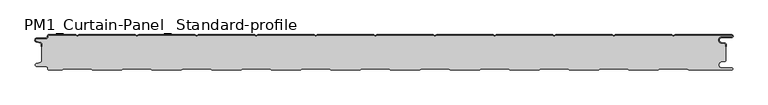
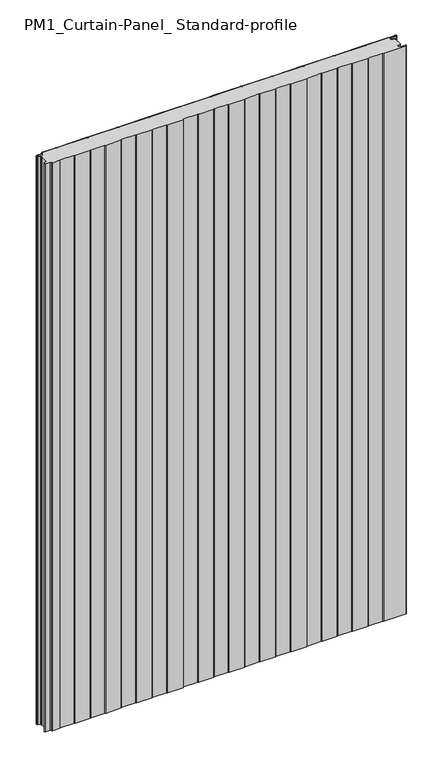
"""IFC4 building model written with IfcOpenShell, lengths in millimetres: plate geometry, PM1_Curtain-Panel_ Standard-profile : ACH_PM1_Acoustic-Sectioning-Panel_60M."""

from ifc_helpers import new_model, si_unit, point, frame, frame_2d, origin, origin_with_axes, place, context, project, spatial, polyline, circle_curve, trimmed, segment, composite_curve, outline, extrude, source, transform, mapped, element, save
from ifc_brep_helpers import plane_surface, cylinder_surface, revolved_surface, advanced_brep


def pm1_curtain_panel_standard_profile_ec20e6b9(model_context):
    return source(origin(), model_context, "Body", "SolidModel", [
        advanced_brep(
        [(-575.0, -15.878557, 1945.7507136), (-575.0, -20.0, 1945.7507136), (-574.2, -20.0, 1945.7507136), (-574.2, -15.878557, 1945.7507136), (-576.370137, -13.1503208, 1945.7507136), (-582.529863, -11.728236, 1945.7507136), (-581.9, -6.2, 1945.7507136), (-566.4, -6.2, 1945.7507136), (-563.6, -3.4, 1945.7507136), (-563.6, -2.0, 1945.7507136), (-562.4, -0.8, 1945.7507136), (-517.3143588, -0.8, 1945.7507136), (-514.4, -2.482606, 1945.7507136), (-511.4856412, -0.8, 1945.7507136), (-417.3143588, -0.8, 1945.7507136), (-414.4, -2.482606, 1945.7507136), (-411.4856412, -0.8, 1945.7507136), (-317.3143588, -0.8, 1945.7507136), (-314.4, -2.482606, 1945.7507136), (-311.4856412, -0.8, 1945.7507136), (-217.3143588, -0.8, 1945.7507136), (-214.4, -2.482606, 1945.7507136), (-211.4856412, -0.8, 1945.7507136), (-117.3143588, -0.8, 1945.7507136), (-114.4, -2.482606, 1945.7507136), (-111.4856412, -0.8, 1945.7507136), (-17.3143588, -0.8, 1945.7507136), (-14.4, -2.482606, 1945.7507136), (-11.4856412, -0.8, 1945.7507136), (82.6856412, -0.8, 1945.7507136), (85.6, -2.482606, 1945.7507136), (88.5143588, -0.8, 1945.7507136), (182.6856412, -0.8, 1945.7507136), (185.6, -2.482606, 1945.7507136), (188.5143588, -0.8, 1945.7507136), (282.6856412, -0.8, 1945.7507136), (285.6, -2.482606, 1945.7507136), (288.5143588, -0.8, 1945.7507136), (382.6856412, -0.8, 1945.7507136), (385.6, -2.482606, 1945.7507136), (388.5143588, -0.8, 1945.7507136), (482.6856412, -0.8, 1945.7507136), (485.6, -2.482606, 1945.7507136), (488.5143588, -0.8, 1945.7507136), (583.1, -0.8, 1945.7507136), (583.1, -4.2, 1945.7507136), (566.1, -4.2, 1945.7507136), (565.2664884, -13.7270771, 1945.7507136), (571.7125669, -14.8636953, 1945.7507136), (573.2, -16.6363492, 1945.7507136), (573.2, -20.0, 1945.7507136), (574.0, -20.0, 1945.7507136), (574.0, -16.6363492, 1945.7507136), (571.8514855, -14.0758491, 1945.7507136), (565.405407, -12.939231, 1945.7507136), (566.1, -5.0, 1945.7507136), (583.1, -5.0, 1945.7507136), (585.6, -2.5, 1945.7507136), (583.1, 0.0, 1945.7507136), (488.2999995, 0.0, 1945.7507136), (485.6, -1.5588455, 1945.7507136), (482.9000005, 0.0, 1945.7507136), (388.2999995, 0.0, 1945.7507136), (385.6, -1.5588455, 1945.7507136), (382.9000005, 0.0, 1945.7507136), (288.2999995, 0.0, 1945.7507136), (285.6, -1.5588455, 1945.7507136), (282.9000005, 0.0, 1945.7507136), (188.2999995, 0.0, 1945.7507136), (185.6, -1.5588455, 1945.7507136), (182.9000005, 0.0, 1945.7507136), (88.2999995, 0.0, 1945.7507136), (85.6, -1.5588455, 1945.7507136), (82.9000005, 0.0, 1945.7507136), (-11.7000005, 0.0, 1945.7507136), (-14.4, -1.5588455, 1945.7507136), (-17.0999995, 0.0, 1945.7507136), (-111.7000005, 0.0, 1945.7507136), (-114.4, -1.5588455, 1945.7507136), (-117.0999995, 0.0, 1945.7507136), (-211.7000005, 0.0, 1945.7507136), (-214.4, -1.5588455, 1945.7507136), (-217.0999995, 0.0, 1945.7507136), (-311.7000005, 0.0, 1945.7507136), (-314.4, -1.5588455, 1945.7507136), (-317.0999995, 0.0, 1945.7507136), (-411.7000005, 0.0, 1945.7507136), (-414.4, -1.5588455, 1945.7507136), (-417.0999995, 0.0, 1945.7507136), (-511.7000005, 0.0, 1945.7507136), (-514.4, -1.5588455, 1945.7507136), (-517.0999995, 0.0, 1945.7507136), (-562.4, 0.0, 1945.7507136), (-564.4, -2.0, 1945.7507136), (-564.4, -3.4, 1945.7507136), (-566.4, -5.4, 1945.7507136), (-581.9, -5.4, 1945.7507136), (-582.7098239, -12.5077322, 1945.7507136), (-576.5500979, -13.929817, 1945.7507136), (-575.0, -15.878557, 0.0), (-576.5500978, -13.9298169, 0.0), (-582.7098239, -12.507732, 0.0), (-581.9, -5.4, 0.0), (-566.4, -5.4, 0.0), (-564.4, -3.4, 0.0), (-564.4, -2.0, 0.0), (-562.4, 0.0, 0.0), (-517.0999995, 0.0, 0.0), (-514.4, -1.5588455, 0.0), (-511.7000005, 0.0, 0.0), (-417.0999995, 0.0, 0.0), (-414.4, -1.5588455, 0.0), (-411.7000005, 0.0, 0.0), (-317.0999995, 0.0, 0.0), (-314.4, -1.5588455, 0.0), (-311.7000005, 0.0, 0.0), (-217.0999995, 0.0, 0.0), (-214.4, -1.5588455, 0.0), (-211.7000005, 0.0, 0.0), (-117.0999995, 0.0, 0.0), (-114.4, -1.5588455, 0.0), (-111.7000005, 0.0, 0.0), (-17.0999995, 0.0, 0.0), (-14.4, -1.5588455, 0.0), (-11.7000005, 0.0, 0.0), (82.9000005, 0.0, 0.0), (85.6, -1.5588455, 0.0), (88.2999995, 0.0, 0.0), (182.9000005, 0.0, 0.0), (185.6, -1.5588455, 0.0), (188.2999995, 0.0, 0.0), (282.9000005, 0.0, 0.0), (285.6, -1.5588455, 0.0), (288.2999995, 0.0, 0.0), (382.9000005, 0.0, 0.0), (385.6, -1.5588455, 0.0), (388.2999995, 0.0, 0.0), (482.9000005, 0.0, 0.0), (485.6, -1.5588455, 0.0), (488.2999995, 0.0, 0.0), (583.1, 0.0, 0.0), (585.6, -2.5, 0.0), (583.1, -5.0, 0.0), (566.1, -5.0, 0.0), (565.405407, -12.939231, 0.0), (571.8514855, -14.0758491, 0.0), (574.0, -16.6363492, 0.0), (574.0, -20.0, 0.0), (573.2, -20.0, 0.0), (573.2, -16.6363492, 0.0), (571.7125669, -14.8636953, 0.0), (565.2664884, -13.7270772, 0.0), (566.1, -4.2, 0.0), (583.1, -4.2, 0.0), (583.1, -0.8, 0.0), (488.5143588, -0.8, 0.0), (485.6, -2.482606, 0.0), (482.6856412, -0.8, 0.0), (388.5143588, -0.8, 0.0), (385.6, -2.482606, 0.0), (382.6856412, -0.8, 0.0), (288.5143588, -0.8, 0.0), (285.6, -2.482606, 0.0), (282.6856412, -0.8, 0.0), (188.5143588, -0.8, 0.0), (185.6, -2.482606, 0.0), (182.6856412, -0.8, 0.0), (88.5143588, -0.8, 0.0), (85.6, -2.482606, 0.0), (82.6856412, -0.8, 0.0), (-11.4856412, -0.8, 0.0), (-14.4, -2.482606, 0.0), (-17.3143588, -0.8, 0.0), (-111.4856412, -0.8, 0.0), (-114.4, -2.482606, 0.0), (-117.3143588, -0.8, 0.0), (-211.4856412, -0.8, 0.0), (-214.4, -2.482606, 0.0), (-217.3143588, -0.8, 0.0), (-311.4856412, -0.8, 0.0), (-314.4, -2.482606, 0.0), (-317.3143588, -0.8, 0.0), (-411.4856412, -0.8, 0.0), (-414.4, -2.482606, 0.0), (-417.3143588, -0.8, 0.0), (-511.4856412, -0.8, 0.0), (-514.4, -2.482606, 0.0), (-517.3143588, -0.8, 0.0), (-562.4, -0.8, 0.0), (-563.6, -2.0, 0.0), (-563.6, -3.4, 0.0), (-566.4, -6.2, 0.0), (-581.9, -6.2, 0.0), (-582.529863, -11.7282362, 0.0), (-576.370137, -13.150321, 0.0), (-574.2, -15.878557, 0.0), (-574.2, -20.0, 0.0), (-575.0, -20.0, 0.0)],
        [
            (0, 1),
            (1, 2),
            (2, 3),
            (3, 4, circle_curve(frame((-577.0, -15.878557, 1945.7507136), z_axis=(0.0, 0.0, 1.0), x_axis=(1.0, 0.0, 0.0)), 2.8)),
            (4, 5),
            (5, 6, circle_curve(frame((-581.9, -9.0, 1945.7507136), z_axis=(0.0, 0.0, -1.0), x_axis=(1.0, 0.0, 0.0)), 2.8)),
            (6, 7),
            (7, 8, circle_curve(frame((-566.4, -3.4, 1945.7507136), z_axis=(0.0, 0.0, 1.0), x_axis=(1.0, 0.0, 0.0)), 2.8)),
            (8, 9),
            (9, 10, circle_curve(frame((-562.4, -2.0, 1945.7507136), z_axis=(0.0, 0.0, -1.0), x_axis=(1.0, 0.0, 0.0)), 1.2)),
            (10, 11),
            (11, 12),
            (12, 13),
            (13, 14),
            (14, 15),
            (15, 16),
            (16, 17),
            (17, 18),
            (18, 19),
            (19, 20),
            (20, 21),
            (21, 22),
            (22, 23),
            (23, 24),
            (24, 25),
            (25, 26),
            (26, 27),
            (27, 28),
            (28, 29),
            (29, 30),
            (30, 31),
            (31, 32),
            (32, 33),
            (33, 34),
            (34, 35),
            (35, 36),
            (36, 37),
            (37, 38),
            (38, 39),
            (39, 40),
            (40, 41),
            (41, 42),
            (42, 43),
            (43, 44),
            (44, 45, circle_curve(frame((583.1, -2.5, 1945.7507136), z_axis=(0.0, 0.0, -1.0), x_axis=(1.0, 0.0, 0.0)), 1.7)),
            (45, 46),
            (46, 47, circle_curve(frame((566.1, -9.0, 1945.7507136), z_axis=(0.0, 0.0, 1.0), x_axis=(1.0, 0.0, 0.0)), 4.8)),
            (47, 48),
            (48, 49, circle_curve(frame((571.4, -16.6363492, 1945.7507136), z_axis=(0.0, 0.0, -1.0), x_axis=(1.0, 0.0, 0.0)), 1.8)),
            (49, 50),
            (50, 51),
            (51, 52),
            (52, 53, circle_curve(frame((571.4, -16.6363492, 1945.7507136), z_axis=(0.0, 0.0, 1.0), x_axis=(1.0, 0.0, 0.0)), 2.6)),
            (53, 54),
            (54, 55, circle_curve(frame((566.1, -9.0, 1945.7507136), z_axis=(0.0, 0.0, -1.0), x_axis=(1.0, 0.0, 0.0)), 4.0)),
            (55, 56),
            (56, 57, circle_curve(frame((583.1, -2.5, 1945.7507136), z_axis=(0.0, 0.0, 1.0), x_axis=(1.0, 0.0, 0.0)), 2.5)),
            (57, 58, circle_curve(frame((583.1, -2.5, 1945.7507136), z_axis=(0.0, 0.0, 1.0), x_axis=(1.0, 0.0, 0.0)), 2.5)),
            (58, 59),
            (59, 60),
            (60, 61),
            (61, 62),
            (62, 63),
            (63, 64),
            (64, 65),
            (65, 66),
            (66, 67),
            (67, 68),
            (68, 69),
            (69, 70),
            (70, 71),
            (71, 72),
            (72, 73),
            (73, 74),
            (74, 75),
            (75, 76),
            (76, 77),
            (77, 78),
            (78, 79),
            (79, 80),
            (80, 81),
            (81, 82),
            (82, 83),
            (83, 84),
            (84, 85),
            (85, 86),
            (86, 87),
            (87, 88),
            (88, 89),
            (89, 90),
            (90, 91),
            (91, 92),
            (92, 93, circle_curve(frame((-562.4, -2.0, 1945.7507136), z_axis=(0.0, 0.0, 1.0), x_axis=(1.0, 0.0, 0.0)), 2.0)),
            (93, 94),
            (94, 95, circle_curve(frame((-566.4, -3.4, 1945.7507136), z_axis=(0.0, 0.0, -1.0), x_axis=(1.0, 0.0, 0.0)), 2.0)),
            (95, 96),
            (96, 97, circle_curve(frame((-581.9, -9.0, 1945.7507136), z_axis=(0.0, 0.0, 1.0), x_axis=(1.0, 0.0, 0.0)), 3.6)),
            (97, 98),
            (98, 0, circle_curve(frame((-577.0, -15.878557, 1945.7507136), z_axis=(0.0, 0.0, -1.0), x_axis=(1.0, 0.0, 0.0)), 2.0)),
            (99, 100, circle_curve(frame((-577.0, -15.878557, 0.0), z_axis=(0.0, 0.0, 1.0), x_axis=(1.0, 0.0, 0.0)), 2.0)),
            (100, 101),
            (101, 102, circle_curve(frame((-581.9, -9.0, 0.0), z_axis=(0.0, 0.0, -1.0), x_axis=(1.0, 0.0, 0.0)), 3.6)),
            (102, 103),
            (103, 104, circle_curve(frame((-566.4, -3.4, 0.0), z_axis=(0.0, 0.0, 1.0), x_axis=(1.0, 0.0, 0.0)), 2.0)),
            (104, 105),
            (105, 106, circle_curve(frame((-562.4, -2.0, 0.0), z_axis=(0.0, 0.0, -1.0), x_axis=(1.0, 0.0, 0.0)), 2.0)),
            (106, 107),
            (107, 108),
            (108, 109),
            (109, 110),
            (110, 111),
            (111, 112),
            (112, 113),
            (113, 114),
            (114, 115),
            (115, 116),
            (116, 117),
            (117, 118),
            (118, 119),
            (119, 120),
            (120, 121),
            (121, 122),
            (122, 123),
            (123, 124),
            (124, 125),
            (125, 126),
            (126, 127),
            (127, 128),
            (128, 129),
            (129, 130),
            (130, 131),
            (131, 132),
            (132, 133),
            (133, 134),
            (134, 135),
            (135, 136),
            (136, 137),
            (137, 138),
            (138, 139),
            (139, 140),
            (140, 141, circle_curve(frame((583.1, -2.5, 0.0), z_axis=(0.0, 0.0, -1.0), x_axis=(1.0, 0.0, 0.0)), 2.5)),
            (141, 142, circle_curve(frame((583.1, -2.5, 0.0), z_axis=(0.0, 0.0, -1.0), x_axis=(1.0, 0.0, 0.0)), 2.5)),
            (142, 143),
            (143, 144, circle_curve(frame((566.1, -9.0, 0.0), z_axis=(0.0, 0.0, 1.0), x_axis=(1.0, 0.0, 0.0)), 4.0)),
            (144, 145),
            (145, 146, circle_curve(frame((571.4, -16.6363492, 0.0), z_axis=(0.0, 0.0, -1.0), x_axis=(1.0, 0.0, 0.0)), 2.6)),
            (146, 147),
            (147, 148),
            (148, 149),
            (149, 150, circle_curve(frame((571.4, -16.6363492, 0.0), z_axis=(0.0, 0.0, 1.0), x_axis=(1.0, 0.0, 0.0)), 1.8)),
            (150, 151),
            (151, 152, circle_curve(frame((566.1, -9.0, 0.0), z_axis=(0.0, 0.0, -1.0), x_axis=(1.0, 0.0, 0.0)), 4.8)),
            (152, 153),
            (153, 154, circle_curve(frame((583.1, -2.5, 0.0), z_axis=(0.0, 0.0, 1.0), x_axis=(1.0, 0.0, 0.0)), 1.7)),
            (154, 155),
            (155, 156),
            (156, 157),
            (157, 158),
            (158, 159),
            (159, 160),
            (160, 161),
            (161, 162),
            (162, 163),
            (163, 164),
            (164, 165),
            (165, 166),
            (166, 167),
            (167, 168),
            (168, 169),
            (169, 170),
            (170, 171),
            (171, 172),
            (172, 173),
            (173, 174),
            (174, 175),
            (175, 176),
            (176, 177),
            (177, 178),
            (178, 179),
            (179, 180),
            (180, 181),
            (181, 182),
            (182, 183),
            (183, 184),
            (184, 185),
            (185, 186),
            (186, 187),
            (187, 188),
            (188, 189, circle_curve(frame((-562.4, -2.0, 0.0), z_axis=(0.0, 0.0, 1.0), x_axis=(1.0, 0.0, 0.0)), 1.2)),
            (189, 190),
            (190, 191, circle_curve(frame((-566.4, -3.4, 0.0), z_axis=(0.0, 0.0, -1.0), x_axis=(1.0, 0.0, 0.0)), 2.8)),
            (191, 192),
            (192, 193, circle_curve(frame((-581.9, -9.0, 0.0), z_axis=(0.0, 0.0, 1.0), x_axis=(1.0, 0.0, 0.0)), 2.8)),
            (193, 194),
            (194, 195, circle_curve(frame((-577.0, -15.878557, 0.0), z_axis=(0.0, 0.0, -1.0), x_axis=(1.0, 0.0, 0.0)), 2.8)),
            (195, 196),
            (196, 197),
            (197, 99),
            (0, 99),
            (197, 1),
            (196, 2),
            (195, 3),
            (194, 4),
            (193, 5),
            (192, 6),
            (191, 7),
            (190, 8),
            (189, 9),
            (188, 10),
            (187, 11),
            (186, 12),
            (185, 13),
            (184, 14),
            (183, 15),
            (182, 16),
            (181, 17),
            (180, 18),
            (179, 19),
            (178, 20),
            (177, 21),
            (176, 22),
            (175, 23),
            (174, 24),
            (173, 25),
            (172, 26),
            (171, 27),
            (170, 28),
            (169, 29),
            (168, 30),
            (167, 31),
            (166, 32),
            (165, 33),
            (164, 34),
            (163, 35),
            (162, 36),
            (161, 37),
            (160, 38),
            (159, 39),
            (158, 40),
            (157, 41),
            (156, 42),
            (155, 43),
            (154, 44),
            (153, 45),
            (152, 46),
            (151, 47),
            (150, 48),
            (149, 49),
            (148, 50),
            (147, 51),
            (146, 52),
            (145, 53),
            (144, 54),
            (143, 55),
            (142, 56),
            (140, 58),
            (139, 59),
            (138, 60),
            (137, 61),
            (136, 62),
            (135, 63),
            (134, 64),
            (133, 65),
            (132, 66),
            (131, 67),
            (130, 68),
            (129, 69),
            (128, 70),
            (127, 71),
            (126, 72),
            (125, 73),
            (124, 74),
            (123, 75),
            (122, 76),
            (121, 77),
            (120, 78),
            (119, 79),
            (118, 80),
            (117, 81),
            (116, 82),
            (115, 83),
            (114, 84),
            (113, 85),
            (112, 86),
            (111, 87),
            (110, 88),
            (109, 89),
            (108, 90),
            (107, 91),
            (106, 92),
            (105, 93),
            (104, 94),
            (103, 95),
            (102, 96),
            (101, 97),
            (100, 98),
        ],
        [
            plane_surface(frame((-575.0, 0.0, 1945.7507136), z_axis=(0.0, 0.0, 1.0), x_axis=(0.0, 1.0, 0.0))),
            plane_surface(frame((-575.0, 0.0, 0.0), z_axis=(0.0, 0.0, -1.0), x_axis=(0.0, 1.0, 0.0))),
            plane_surface(frame((-575.0, -15.878557, 1945.7507136), z_axis=(-1.0, 0.0, 0.0), x_axis=(0.0, 0.0, -1.0))),
            plane_surface(frame((-575.0, -20.0, 1945.7507136), z_axis=(0.0, -1.0, 0.0), x_axis=(0.0, 0.0, -1.0))),
            plane_surface(frame((-574.2, -20.0, 1945.7507136), z_axis=(1.0, 0.0, 0.0), x_axis=(0.0, 0.0, -1.0))),
            cylinder_surface(frame((-577.0, -15.878557, 1945.7507136), z_axis=(0.0, 0.0, 1.0), x_axis=(1.0, 0.0, 0.0)), 2.8),
            plane_surface(frame((-576.370137, -13.150321, 1945.7507136), z_axis=(0.22495108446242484, 0.9743700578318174, 0.0), x_axis=(0.0, 0.0, -1.0))),
            revolved_surface(polyline([(-579.1, -9.0, 0.0), (-579.1, -9.0, 1945.7507136)]), (-581.9, -9.0, 1945.7507136), (0.0, 0.0, -1.0)),
            plane_surface(frame((-581.9, -6.2, 1945.7507136), z_axis=(0.0, -1.0, 0.0), x_axis=(0.0, 0.0, -1.0))),
            cylinder_surface(frame((-566.4, -3.4, 1945.7507136), z_axis=(0.0, 0.0, 1.0), x_axis=(1.0, 0.0, 0.0)), 2.8),
            plane_surface(frame((-563.6, -3.4, 1945.7507136), z_axis=(1.0, 0.0, 0.0), x_axis=(0.0, 0.0, -1.0))),
            revolved_surface(polyline([(-561.1999999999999, -2.0, 0.0), (-561.1999999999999, -2.0, 1945.7507136)]), (-562.4, -2.0, 1945.7507136), (0.0, 0.0, -1.0)),
            plane_surface(frame((-562.4, -0.8, 1945.7507136), z_axis=(0.0, -1.0, 0.0), x_axis=(0.0, 0.0, -1.0))),
            plane_surface(frame((-517.3143588, -0.8, 1945.7507136), z_axis=(-0.5000000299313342, -0.8660253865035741, 0.0), x_axis=(0.0, 0.0, -1.0))),
            plane_surface(frame((-514.4, -2.482606, 1945.7507136), z_axis=(0.5000000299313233, -0.8660253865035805, 0.0), x_axis=(0.0, 0.0, -1.0))),
            plane_surface(frame((-511.4856412, -0.8, 1945.7507136), z_axis=(0.0, -1.0, 0.0), x_axis=(0.0, 0.0, -1.0))),
            plane_surface(frame((-417.3143588, -0.8, 1945.7507136), z_axis=(-0.5000000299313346, -0.8660253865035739, 0.0), x_axis=(0.0, 0.0, -1.0))),
            plane_surface(frame((-414.4, -2.482606, 1945.7507136), z_axis=(0.5000000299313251, -0.8660253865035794, 0.0), x_axis=(0.0, 0.0, -1.0))),
            plane_surface(frame((-411.4856412, -0.8, 1945.7507136), z_axis=(0.0, -1.0, 0.0), x_axis=(0.0, 0.0, -1.0))),
            plane_surface(frame((-317.3143588, -0.8, 1945.7507136), z_axis=(-0.5000000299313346, -0.866025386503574, 0.0), x_axis=(0.0, 0.0, -1.0))),
            plane_surface(frame((-314.4, -2.482606, 1945.7507136), z_axis=(0.5000000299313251, -0.8660253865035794, 0.0), x_axis=(0.0, 0.0, -1.0))),
            plane_surface(frame((-311.4856412, -0.8, 1945.7507136), z_axis=(0.0, -1.0, 0.0), x_axis=(0.0, 0.0, -1.0))),
            plane_surface(frame((-217.3143588, -0.8, 1945.7507136), z_axis=(-0.5000000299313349, -0.8660253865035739, 0.0), x_axis=(0.0, 0.0, -1.0))),
            plane_surface(frame((-214.4, -2.482606, 1945.7507136), z_axis=(0.5000000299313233, -0.8660253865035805, 0.0), x_axis=(0.0, 0.0, -1.0))),
            plane_surface(frame((-211.4856412, -0.8, 1945.7507136), z_axis=(0.0, -1.0, 0.0), x_axis=(0.0, 0.0, -1.0))),
            plane_surface(frame((-117.3143588, -0.8, 1945.7507136), z_axis=(-0.5000000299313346, -0.866025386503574, 0.0), x_axis=(0.0, 0.0, -1.0))),
            plane_surface(frame((-114.4, -2.482606, 1945.7507136), z_axis=(0.5000000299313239, -0.8660253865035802, 0.0), x_axis=(0.0, 0.0, -1.0))),
            plane_surface(frame((-111.4856412, -0.8, 1945.7507136), z_axis=(0.0, -1.0, 0.0), x_axis=(0.0, 0.0, -1.0))),
            plane_surface(frame((-17.3143588, -0.8, 1945.7507136), z_axis=(-0.5000000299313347, -0.8660253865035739, 0.0), x_axis=(0.0, 0.0, -1.0))),
            plane_surface(frame((-14.4, -2.482606, 1945.7507136), z_axis=(0.5000000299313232, -0.8660253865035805, 0.0), x_axis=(0.0, 0.0, -1.0))),
            plane_surface(frame((-11.4856412, -0.8, 1945.7507136), z_axis=(0.0, -1.0, 0.0), x_axis=(0.0, 0.0, -1.0))),
            plane_surface(frame((82.6856412, -0.8, 1945.7507136), z_axis=(-0.5000000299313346, -0.866025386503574, 0.0), x_axis=(0.0, 0.0, -1.0))),
            plane_surface(frame((85.6, -2.482606, 1945.7507136), z_axis=(0.5000000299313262, -0.8660253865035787, 0.0), x_axis=(0.0, 0.0, -1.0))),
            plane_surface(frame((88.5143588, -0.8, 1945.7507136), z_axis=(0.0, -1.0, 0.0), x_axis=(0.0, 0.0, -1.0))),
            plane_surface(frame((182.6856412, -0.8, 1945.7507136), z_axis=(-0.5000000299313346, -0.8660253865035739, 0.0), x_axis=(0.0, 0.0, -1.0))),
            plane_surface(frame((185.6, -2.482606, 1945.7507136), z_axis=(0.5000000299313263, -0.8660253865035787, 0.0), x_axis=(0.0, 0.0, -1.0))),
            plane_surface(frame((188.5143588, -0.8, 1945.7507136), z_axis=(0.0, -1.0, 0.0), x_axis=(0.0, 0.0, -1.0))),
            plane_surface(frame((282.6856412, -0.8, 1945.7507136), z_axis=(-0.5000000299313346, -0.8660253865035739, 0.0), x_axis=(0.0, 0.0, -1.0))),
            plane_surface(frame((285.6, -2.482606, 1945.7507136), z_axis=(0.5000000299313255, -0.8660253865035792, 0.0), x_axis=(0.0, 0.0, -1.0))),
            plane_surface(frame((288.5143588, -0.8, 1945.7507136), z_axis=(0.0, -1.0, 0.0), x_axis=(0.0, 0.0, -1.0))),
            plane_surface(frame((382.6856412, -0.8, 1945.7507136), z_axis=(-0.5000000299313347, -0.8660253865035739, 0.0), x_axis=(0.0, 0.0, -1.0))),
            plane_surface(frame((385.6, -2.482606, 1945.7507136), z_axis=(0.5000000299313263, -0.8660253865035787, 0.0), x_axis=(0.0, 0.0, -1.0))),
            plane_surface(frame((388.5143588, -0.8, 1945.7507136), z_axis=(0.0, -1.0, 0.0), x_axis=(0.0, 0.0, -1.0))),
            plane_surface(frame((482.6856412, -0.8, 1945.7507136), z_axis=(-0.5000000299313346, -0.866025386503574, 0.0), x_axis=(0.0, 0.0, -1.0))),
            plane_surface(frame((485.6, -2.482606, 1945.7507136), z_axis=(0.5000000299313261, -0.8660253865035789, 0.0), x_axis=(0.0, 0.0, -1.0))),
            plane_surface(frame((535.6, -0.8, 1945.7507136), z_axis=(0.0, -1.0, 0.0), x_axis=(0.0, 0.0, -1.0))),
            revolved_surface(polyline([(584.8000000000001, -2.5, 0.0), (584.8000000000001, -2.5, 1945.7507136)]), (583.1, -2.5, 1945.7507136), (0.0, 0.0, -1.0)),
            plane_surface(frame((583.1, -4.2, 1945.7507136), z_axis=(0.0, 1.0, 0.0), x_axis=(0.0, 0.0, -1.0))),
            cylinder_surface(frame((566.1, -9.0, 1945.7507136), z_axis=(0.0, 0.0, 1.0), x_axis=(1.0, 0.0, 0.0)), 4.8),
            plane_surface(frame((565.2664884, -13.7270772, 1945.7507136), z_axis=(-0.17364825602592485, -0.9848077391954, 0.0), x_axis=(0.0, 0.0, -1.0))),
            revolved_surface(polyline([(573.1999999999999, -16.6363492, 0.0), (573.1999999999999, -16.6363492, 1945.7507136)]), (571.4, -16.6363492, 1945.7507136), (0.0, 0.0, -1.0)),
            plane_surface(frame((573.2, -16.6363492, 1945.7507136), z_axis=(-1.0, 0.0, 0.0), x_axis=(0.0, 0.0, -1.0))),
            plane_surface(frame((573.2, -20.0, 1945.7507136), z_axis=(0.0, -1.0, 0.0), x_axis=(0.0, 0.0, -1.0))),
            plane_surface(frame((574.0, -20.0, 1945.7507136), z_axis=(1.0, 0.0, 0.0), x_axis=(0.0, 0.0, -1.0))),
            cylinder_surface(frame((571.4, -16.6363492, 1945.7507136), z_axis=(0.0, 0.0, 1.0), x_axis=(1.0, 0.0, 0.0)), 2.6),
            plane_surface(frame((571.8514855, -14.0758491, 1945.7507136), z_axis=(0.1736482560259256, 0.9848077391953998, 0.0), x_axis=(0.0, 0.0, -1.0))),
            revolved_surface(polyline([(570.1, -9.0, 0.0), (570.1, -9.0, 1945.7507136)]), (566.1, -9.0, 1945.7507136), (0.0, 0.0, -1.0)),
            plane_surface(frame((566.1, -5.0, 1945.7507136), z_axis=(0.0, -1.0, 0.0), x_axis=(0.0, 0.0, -1.0))),
            cylinder_surface(frame((583.1, -2.5, 1945.7507136), z_axis=(0.0, 0.0, 1.0), x_axis=(1.0, 0.0, 0.0)), 2.5),
            plane_surface(frame((535.6, 0.0, 1945.7507136), z_axis=(0.0, 1.0, 0.0), x_axis=(0.0, 0.0, -1.0))),
            plane_surface(frame((488.2999995, 0.0, 1945.7507136), z_axis=(-0.5000000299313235, 0.8660253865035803, 0.0), x_axis=(0.0, 0.0, -1.0))),
            plane_surface(frame((485.6, -1.5588455, 1945.7507136), z_axis=(0.5000000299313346, 0.8660253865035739, 0.0), x_axis=(0.0, 0.0, -1.0))),
            plane_surface(frame((482.9000005, 0.0, 1945.7507136), z_axis=(0.0, 1.0, 0.0), x_axis=(0.0, 0.0, -1.0))),
            plane_surface(frame((388.2999995, 0.0, 1945.7507136), z_axis=(-0.5000000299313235, 0.8660253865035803, 0.0), x_axis=(0.0, 0.0, -1.0))),
            plane_surface(frame((385.6, -1.5588455, 1945.7507136), z_axis=(0.5000000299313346, 0.8660253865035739, 0.0), x_axis=(0.0, 0.0, -1.0))),
            plane_surface(frame((382.9000005, 0.0, 1945.7507136), z_axis=(0.0, 1.0, 0.0), x_axis=(0.0, 0.0, -1.0))),
            plane_surface(frame((288.2999995, 0.0, 1945.7507136), z_axis=(-0.5000000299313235, 0.8660253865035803, 0.0), x_axis=(0.0, 0.0, -1.0))),
            plane_surface(frame((285.6, -1.5588455, 1945.7507136), z_axis=(0.5000000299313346, 0.8660253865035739, 0.0), x_axis=(0.0, 0.0, -1.0))),
            plane_surface(frame((282.9000005, 0.0, 1945.7507136), z_axis=(0.0, 1.0, 0.0), x_axis=(0.0, 0.0, -1.0))),
            plane_surface(frame((188.2999995, 0.0, 1945.7507136), z_axis=(-0.5000000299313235, 0.8660253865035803, 0.0), x_axis=(0.0, 0.0, -1.0))),
            plane_surface(frame((185.6, -1.5588455, 1945.7507136), z_axis=(0.5000000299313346, 0.8660253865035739, 0.0), x_axis=(0.0, 0.0, -1.0))),
            plane_surface(frame((182.9000005, 0.0, 1945.7507136), z_axis=(0.0, 1.0, 0.0), x_axis=(0.0, 0.0, -1.0))),
            plane_surface(frame((88.2999995, 0.0, 1945.7507136), z_axis=(-0.5000000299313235, 0.8660253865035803, 0.0), x_axis=(0.0, 0.0, -1.0))),
            plane_surface(frame((85.6, -1.5588455, 1945.7507136), z_axis=(0.5000000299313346, 0.8660253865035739, 0.0), x_axis=(0.0, 0.0, -1.0))),
            plane_surface(frame((82.9000005, 0.0, 1945.7507136), z_axis=(0.0, 1.0, 0.0), x_axis=(0.0, 0.0, -1.0))),
            plane_surface(frame((-11.7000005, 0.0, 1945.7507136), z_axis=(-0.5000000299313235, 0.8660253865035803, 0.0), x_axis=(0.0, 0.0, -1.0))),
            plane_surface(frame((-14.4, -1.5588455, 1945.7507136), z_axis=(0.5000000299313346, 0.8660253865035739, 0.0), x_axis=(0.0, 0.0, -1.0))),
            plane_surface(frame((-17.0999995, 0.0, 1945.7507136), z_axis=(0.0, 1.0, 0.0), x_axis=(0.0, 0.0, -1.0))),
            plane_surface(frame((-111.7000005, 0.0, 1945.7507136), z_axis=(-0.5000000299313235, 0.8660253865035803, 0.0), x_axis=(0.0, 0.0, -1.0))),
            plane_surface(frame((-114.4, -1.5588455, 1945.7507136), z_axis=(0.5000000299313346, 0.8660253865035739, 0.0), x_axis=(0.0, 0.0, -1.0))),
            plane_surface(frame((-117.0999995, 0.0, 1945.7507136), z_axis=(0.0, 1.0, 0.0), x_axis=(0.0, 0.0, -1.0))),
            plane_surface(frame((-211.7000005, 0.0, 1945.7507136), z_axis=(-0.5000000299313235, 0.8660253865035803, 0.0), x_axis=(0.0, 0.0, -1.0))),
            plane_surface(frame((-214.4, -1.5588455, 1945.7507136), z_axis=(0.5000000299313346, 0.8660253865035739, 0.0), x_axis=(0.0, 0.0, -1.0))),
            plane_surface(frame((-217.0999995, 0.0, 1945.7507136), z_axis=(0.0, 1.0, 0.0), x_axis=(0.0, 0.0, -1.0))),
            plane_surface(frame((-311.7000005, 0.0, 1945.7507136), z_axis=(-0.5000000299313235, 0.8660253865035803, 0.0), x_axis=(0.0, 0.0, -1.0))),
            plane_surface(frame((-314.4, -1.5588455, 1945.7507136), z_axis=(0.5000000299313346, 0.8660253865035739, 0.0), x_axis=(0.0, 0.0, -1.0))),
            plane_surface(frame((-317.0999995, 0.0, 1945.7507136), z_axis=(0.0, 1.0, 0.0), x_axis=(0.0, 0.0, -1.0))),
            plane_surface(frame((-411.7000005, 0.0, 1945.7507136), z_axis=(-0.5000000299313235, 0.8660253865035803, 0.0), x_axis=(0.0, 0.0, -1.0))),
            plane_surface(frame((-414.4, -1.5588455, 1945.7507136), z_axis=(0.5000000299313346, 0.8660253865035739, 0.0), x_axis=(0.0, 0.0, -1.0))),
            plane_surface(frame((-417.0999995, 0.0, 1945.7507136), z_axis=(0.0, 1.0, 0.0), x_axis=(0.0, 0.0, -1.0))),
            plane_surface(frame((-511.7000005, 0.0, 1945.7507136), z_axis=(-0.5000000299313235, 0.8660253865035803, 0.0), x_axis=(0.0, 0.0, -1.0))),
            plane_surface(frame((-514.4, -1.5588455, 1945.7507136), z_axis=(0.5000000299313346, 0.8660253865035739, 0.0), x_axis=(0.0, 0.0, -1.0))),
            plane_surface(frame((-517.0999995, 0.0, 1945.7507136), z_axis=(0.0, 1.0, 0.0), x_axis=(0.0, 0.0, -1.0))),
            cylinder_surface(frame((-562.4, -2.0, 1945.7507136), z_axis=(0.0, 0.0, 1.0), x_axis=(1.0, 0.0, 0.0)), 2.0),
            plane_surface(frame((-564.4, -2.0, 1945.7507136), z_axis=(-1.0, 0.0, 0.0), x_axis=(0.0, 0.0, -1.0))),
            revolved_surface(polyline([(-564.4, -3.4, 0.0), (-564.4, -3.4, 1945.7507136)]), (-566.4, -3.4, 1945.7507136), (0.0, 0.0, -1.0)),
            plane_surface(frame((-566.4, -5.4, 1945.7507136), z_axis=(0.0, 1.0, 0.0), x_axis=(0.0, 0.0, -1.0))),
            cylinder_surface(frame((-581.9, -9.0, 1945.7507136), z_axis=(0.0, 0.0, 1.0), x_axis=(1.0, 0.0, 0.0)), 3.6),
            plane_surface(frame((-582.7098239, -12.507732, 1945.7507136), z_axis=(-0.22495108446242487, -0.9743700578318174, 0.0), x_axis=(0.0, 0.0, -1.0))),
            revolved_surface(polyline([(-575.0, -15.878557, 0.0), (-575.0, -15.878557, 1945.7507136)]), (-577.0, -15.878557, 1945.7507136), (0.0, 0.0, -1.0)),
        ],
        [
            (0, [[1, 2, 3, 4, 5, 6, 7, 8, 9, 10, 11, 12, 13, 14, 15, 16, 17, 18, 19, 20, 21, 22, 23, 24, 25, 26, 27, 28, 29, 30, 31, 32, 33, 34, 35, 36, 37, 38, 39, 40, 41, 42, 43, 44, 45, 46, 47, 48, 49, 50, 51, 52, 53, 54, 55, 56, 57, 58, 59, 60, 61, 62, 63, 64, 65, 66, 67, 68, 69, 70, 71, 72, 73, 74, 75, 76, 77, 78, 79, 80, 81, 82, 83, 84, 85, 86, 87, 88, 89, 90, 91, 92, 93, 94, 95, 96, 97, 98, 99]]),
            (1, [[100, 101, 102, 103, 104, 105, 106, 107, 108, 109, 110, 111, 112, 113, 114, 115, 116, 117, 118, 119, 120, 121, 122, 123, 124, 125, 126, 127, 128, 129, 130, 131, 132, 133, 134, 135, 136, 137, 138, 139, 140, 141, 142, 143, 144, 145, 146, 147, 148, 149, 150, 151, 152, 153, 154, 155, 156, 157, 158, 159, 160, 161, 162, 163, 164, 165, 166, 167, 168, 169, 170, 171, 172, 173, 174, 175, 176, 177, 178, 179, 180, 181, 182, 183, 184, 185, 186, 187, 188, 189, 190, 191, 192, 193, 194, 195, 196, 197, 198]]),
            (2, [[-1, 199, -198, 200]]),
            (3, [[-2, -200, -197, 201]]),
            (4, [[-3, -201, -196, 202]]),
            (5, [[-4, -202, -195, 203]]),
            (6, [[-5, -203, -194, 204]]),
            (7, [[-6, -204, -193, 205]]),
            (8, [[-7, -205, -192, 206]]),
            (9, [[-8, -206, -191, 207]]),
            (10, [[-9, -207, -190, 208]]),
            (11, [[-10, -208, -189, 209]]),
            (12, [[-11, -209, -188, 210]]),
            (13, [[-12, -210, -187, 211]]),
            (14, [[-13, -211, -186, 212]]),
            (15, [[-14, -212, -185, 213]]),
            (16, [[-15, -213, -184, 214]]),
            (17, [[-16, -214, -183, 215]]),
            (18, [[-17, -215, -182, 216]]),
            (19, [[-18, -216, -181, 217]]),
            (20, [[-19, -217, -180, 218]]),
            (21, [[-20, -218, -179, 219]]),
            (22, [[-21, -219, -178, 220]]),
            (23, [[-22, -220, -177, 221]]),
            (24, [[-23, -221, -176, 222]]),
            (25, [[-24, -222, -175, 223]]),
            (26, [[-25, -223, -174, 224]]),
            (27, [[-26, -224, -173, 225]]),
            (28, [[-27, -225, -172, 226]]),
            (29, [[-28, -226, -171, 227]]),
            (30, [[-29, -227, -170, 228]]),
            (31, [[-30, -228, -169, 229]]),
            (32, [[-31, -229, -168, 230]]),
            (33, [[-32, -230, -167, 231]]),
            (34, [[-33, -231, -166, 232]]),
            (35, [[-34, -232, -165, 233]]),
            (36, [[-35, -233, -164, 234]]),
            (37, [[-36, -234, -163, 235]]),
            (38, [[-37, -235, -162, 236]]),
            (39, [[-38, -236, -161, 237]]),
            (40, [[-39, -237, -160, 238]]),
            (41, [[-40, -238, -159, 239]]),
            (42, [[-41, -239, -158, 240]]),
            (43, [[-42, -240, -157, 241]]),
            (44, [[-43, -241, -156, 242]]),
            (45, [[-44, -242, -155, 243]]),
            (46, [[-45, -243, -154, 244]]),
            (47, [[-46, -244, -153, 245]]),
            (48, [[-47, -245, -152, 246]]),
            (49, [[-48, -246, -151, 247]]),
            (50, [[-49, -247, -150, 248]]),
            (51, [[-50, -248, -149, 249]]),
            (52, [[-51, -249, -148, 250]]),
            (53, [[-52, -250, -147, 251]]),
            (54, [[-53, -251, -146, 252]]),
            (55, [[-54, -252, -145, 253]]),
            (56, [[-55, -253, -144, 254]]),
            (57, [[-56, -254, -143, 255]]),
            (58, [[-255, -142, -141, 256, -58, -57]]),
            (59, [[-59, -256, -140, 257]]),
            (60, [[-60, -257, -139, 258]]),
            (61, [[-61, -258, -138, 259]]),
            (62, [[-62, -259, -137, 260]]),
            (63, [[-63, -260, -136, 261]]),
            (64, [[-64, -261, -135, 262]]),
            (65, [[-65, -262, -134, 263]]),
            (66, [[-66, -263, -133, 264]]),
            (67, [[-67, -264, -132, 265]]),
            (68, [[-68, -265, -131, 266]]),
            (69, [[-69, -266, -130, 267]]),
            (70, [[-70, -267, -129, 268]]),
            (71, [[-71, -268, -128, 269]]),
            (72, [[-72, -269, -127, 270]]),
            (73, [[-73, -270, -126, 271]]),
            (74, [[-74, -271, -125, 272]]),
            (75, [[-75, -272, -124, 273]]),
            (76, [[-76, -273, -123, 274]]),
            (77, [[-77, -274, -122, 275]]),
            (78, [[-78, -275, -121, 276]]),
            (79, [[-79, -276, -120, 277]]),
            (80, [[-80, -277, -119, 278]]),
            (81, [[-81, -278, -118, 279]]),
            (82, [[-82, -279, -117, 280]]),
            (83, [[-83, -280, -116, 281]]),
            (84, [[-84, -281, -115, 282]]),
            (85, [[-85, -282, -114, 283]]),
            (86, [[-86, -283, -113, 284]]),
            (87, [[-87, -284, -112, 285]]),
            (88, [[-88, -285, -111, 286]]),
            (89, [[-89, -286, -110, 287]]),
            (90, [[-90, -287, -109, 288]]),
            (91, [[-91, -288, -108, 289]]),
            (92, [[-92, -289, -107, 290]]),
            (93, [[-93, -290, -106, 291]]),
            (94, [[-94, -291, -105, 292]]),
            (95, [[-95, -292, -104, 293]]),
            (96, [[-96, -293, -103, 294]]),
            (97, [[-97, -294, -102, 295]]),
            (98, [[-98, -295, -101, 296]]),
            (99, [[-99, -296, -100, -199]]),
        ],
    ),
        extrude(outline(composite_curve([segment(polyline([(-574.2, -44.121443), (-574.2, -15.8785573)]), True, "CONTINUOUS"), segment(trimmed(circle_curve(frame_2d((-577.0, -15.8785573)), 2.8), [point((-574.2, -15.8785573))], [point((-576.370137, -13.1503212))], True, "CARTESIAN"), True, "CONTINUOUS"), segment(polyline([(-576.370137, -13.1503212), (-582.5298631, -11.7282362)]), True, "CONTINUOUS"), segment(trimmed(circle_curve(frame_2d((-581.9, -9.0)), 2.8), [point((-582.5298631, -11.7282362))], [point((-581.9, -6.2))], False, "CARTESIAN"), True, "CONTINUOUS"), segment(polyline([(-581.9, -6.2), (-566.4000001, -6.2)]), True, "CONTINUOUS"), segment(trimmed(circle_curve(frame_2d((-566.4000001, -3.4)), 2.8), [point((-566.4000001, -6.2))], [point((-563.6000001, -3.4))], True, "CARTESIAN"), True, "CONTINUOUS"), segment(polyline([(-563.6000001, -3.4), (-563.6000001, -2.0)]), True, "CONTINUOUS"), segment(trimmed(circle_curve(frame_2d((-562.4000001, -2.0)), 1.2), [point((-563.6000001, -2.0))], [point((-562.4000001, -0.8))], False, "CARTESIAN"), True, "CONTINUOUS"), segment(polyline([(-562.4000001, -0.8), (-517.3143589, -0.8), (-514.4000001, -2.482606), (-511.4856412, -0.8), (-417.3143589, -0.8), (-414.4000001, -2.482606), (-411.4856412, -0.8), (-317.3143589, -0.8), (-314.4000001, -2.482606), (-311.4856412, -0.8), (-217.3143589, -0.8), (-214.4000001, -2.482606), (-211.4856412, -0.8), (-117.3143589, -0.8), (-114.4000001, -2.482606), (-111.4856412, -0.8), (-17.3143589, -0.8), (-14.4000001, -2.482606), (-11.4856412, -0.8), (82.6856411, -0.8), (85.5999999, -2.482606), (88.5143588, -0.8), (182.6856411, -0.8), (185.5999999, -2.482606), (188.5143588, -0.8), (282.6856411, -0.8), (285.5999999, -2.482606), (288.5143588, -0.8), (382.6856411, -0.8), (385.5999999, -2.482606), (388.5143588, -0.8), (482.6856411, -0.8), (485.6, -2.482606), (488.5143588, -0.8), (583.1, -0.8)]), True, "CONTINUOUS"), segment(trimmed(circle_curve(frame_2d((583.1, -2.5)), 1.7), [point((583.1, -0.8))], [point((583.1, -4.2))], False, "CARTESIAN"), True, "CONTINUOUS"), segment(polyline([(583.1, -4.2), (566.1, -4.2)]), True, "CONTINUOUS"), segment(trimmed(circle_curve(frame_2d((566.1, -9.0)), 4.8), [point((566.1, -4.2))], [point((565.2664883, -13.7270771))], True, "CARTESIAN"), True, "CONTINUOUS"), segment(polyline([(565.2664883, -13.7270771), (571.7125668, -14.8636953)]), True, "CONTINUOUS"), segment(trimmed(circle_curve(frame_2d((571.4, -16.6363492)), 1.8), [point((571.7125668, -14.8636953))], [point((573.2, -16.6363492))], False, "CARTESIAN"), True, "CONTINUOUS"), segment(polyline([(573.2, -16.6363492), (573.2, -43.363652)]), True, "CONTINUOUS"), segment(trimmed(circle_curve(frame_2d((571.4, -43.363652)), 1.8), [point((573.2, -43.363652))], [point((571.7125666, -45.1363059))], False, "CARTESIAN"), True, "CONTINUOUS"), segment(polyline([(571.7125666, -45.1363059), (565.266489, -46.272923)]), True, "CONTINUOUS"), segment(trimmed(circle_curve(frame_2d((566.1, -51.0000002)), 4.7999999), [point((565.266489, -46.272923))], [point((566.1, -55.8000001))], True, "CARTESIAN"), True, "CONTINUOUS"), segment(polyline([(566.1, -55.8000001), (583.1, -55.8000001)]), True, "CONTINUOUS"), segment(trimmed(circle_curve(frame_2d((583.1, -57.5)), 1.7), [point((583.1, -55.8000001))], [point((583.1, -59.2))], False, "CARTESIAN"), True, "CONTINUOUS"), segment(polyline([(583.1, -59.2), (510.8105122, -59.2), (508.2124346, -57.7), (462.9837184, -57.7), (460.3856408, -59.2), (410.8105122, -59.2), (408.2124346, -57.7), (362.9837184, -57.7), (360.3856408, -59.2), (310.8105122, -59.2), (308.2124346, -57.7), (262.9837184, -57.7), (260.3856408, -59.2), (210.8105122, -59.2), (208.2124346, -57.7), (162.9837184, -57.7), (160.3856408, -59.2), (110.8105122, -59.2), (108.2124346, -57.7), (62.9837184, -57.7), (60.3856408, -59.2), (10.8105122, -59.2), (8.2124346, -57.7), (-37.0162816, -57.7), (-39.6143592, -59.2), (-89.1894878, -59.2), (-91.7875654, -57.7), (-137.0162816, -57.7), (-139.6143592, -59.2), (-189.1894878, -59.2), (-191.7875654, -57.7), (-237.0162816, -57.7), (-239.6143592, -59.2), (-289.1894878, -59.2), (-291.7875654, -57.7), (-337.0162816, -57.7), (-339.6143592, -59.2), (-389.1894878, -59.2), (-391.7875654, -57.7), (-437.0162816, -57.7), (-439.6143592, -59.2), (-489.1894878, -59.2), (-491.7875654, -57.7), (-537.0162816, -57.7), (-539.6143592, -59.2), (-562.4, -59.2)]), True, "CONTINUOUS"), segment(trimmed(circle_curve(frame_2d((-562.4, -58.0)), 1.2), [point((-562.4, -59.2))], [point((-563.6, -58.0))], False, "CARTESIAN"), True, "CONTINUOUS"), segment(polyline([(-563.6, -58.0), (-563.6, -56.5999998)]), True, "CONTINUOUS"), segment(trimmed(circle_curve(frame_2d((-566.4, -56.5999998)), 2.8), [point((-563.6, -56.5999998))], [point((-566.4, -53.7999998))], True, "CARTESIAN"), True, "CONTINUOUS"), segment(polyline([(-566.4, -53.7999998), (-581.9, -53.7999998)]), True, "CONTINUOUS"), segment(trimmed(circle_curve(frame_2d((-581.9, -51.0)), 2.7999998), [point((-581.9, -53.7999998))], [point((-582.529863, -48.271764))], False, "CARTESIAN"), True, "CONTINUOUS"), segment(polyline([(-582.529863, -48.271764), (-576.370137, -46.8496792)]), True, "CONTINUOUS"), segment(trimmed(circle_curve(frame_2d((-577.0, -44.121443)), 2.8), [point((-576.370137, -46.8496792))], [point((-574.2, -44.121443))], True, "CARTESIAN"), True, "CONTINUOUS")], self_intersect=False)), origin_with_axes(), (0.0, 0.0, 1.0), 1945.7507136),
    ])


if __name__ == "__main__":
    model = new_model("IFC4")
    model_context = context("Model", 3, world=origin())
    ifc_project = project(units=[si_unit("LENGTHUNIT", "METRE", prefix="MILLI")], contexts=[model_context])
    site = spatial("IfcSite", under=ifc_project)
    building = spatial("IfcBuilding", under=site)
    placement = place(None, origin())
    pm1_curtain_panel_standard_profile_shape = pm1_curtain_panel_standard_profile_ec20e6b9(model_context)
    element("IfcPlate", 1, ObjectType="PM1_Curtain-Panel_ Standard-profile : ACH_PM1_Acoustic-Sectioning-Panel_60M", at=placement, inside=building, context=model_context, shape_type="MappedRepresentation", body=[
        mapped(pm1_curtain_panel_standard_profile_shape, transform((0.0, 0.0, 0.0), x_axis=(1.0, 0.0, 0.0), y_axis=(0.0, 1.0, 0.0), z_axis=(0.0, 0.0, 1.0))),
    ])
    save(model, "model.ifc")
